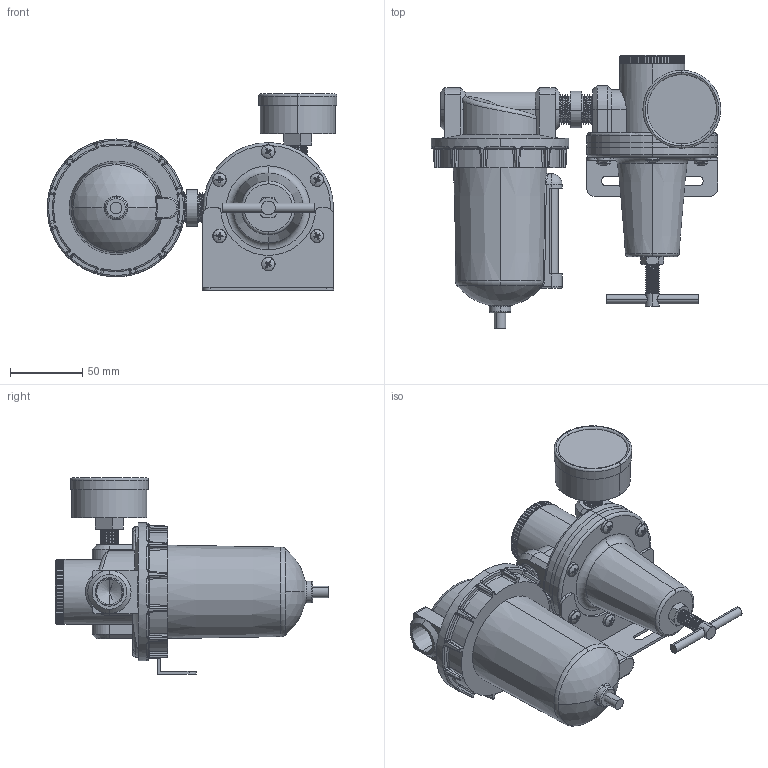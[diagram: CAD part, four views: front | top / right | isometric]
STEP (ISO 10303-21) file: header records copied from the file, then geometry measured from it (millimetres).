
FILE_DESCRIPTION (( 'STEP AP203' ), '1' );
FILE_NAME ('U628#W-04#YB#.STEP', '2016-01-14T17:27:13', ( '' ), ( '' ), 'SwSTEP 2.0', 'SolidWorks 2014', '' );
FILE_SCHEMA (( 'CONFIG_CONTROL_DESIGN' ));
Length unit declared in the file: millimetre
Products named in the file (20): R119-04-4; L606-W-06-5; U628#W-04#YB#; R119-04-1; R119-02-5; R119-04-3; ISO 7045 - M5 x 12; KW18A57; R119-02-7; R119-02-6; 50-P-AD=1-4PT.SLDPRT; L606-W-04-下; F602-04-上; 50-P-AD=1-4PT-1; R119-04; R119-04-2; 50-P-AD=1-4PT-2; L606-W-06-2; 1-2-圓; F602W-04#YB#
Assembly tree (24 placements, depth 4):
  U628#W-04#YB#
    R119-04
      R119-04-1
      R119-04-2
      R119-04-3
      R119-04-4
      R119-02-5
      R119-02-7
      R119-02-6
      ISO 7045 - M5 x 12  x6
      50-P-AD=1-4PT.SLDPRT
        50-P-AD=1-4PT-1
        50-P-AD=1-4PT-2
      KW18A57
    1-2-圓
    F602W-04#YB#
      F602-04-上
      L606-W-06-2
      L606-W-06-5
      L606-W-04-下
Bounding box: 200.75 x 189.5 x 136 mm (x, y, z)
Volume: 908895.4 mm3; surface area: 161694.5 mm2
Topology: 21 solids, 21 shells, 1184 faces, 2879 edges, 1712 vertices
Faces by surface type: plane 404, cylinder 289, cone 260, bspline 113, torus 73, sphere 45
Entity records: 44042 total; most frequent: CARTESIAN_POINT 19944, ORIENTED_EDGE 4838, DIRECTION 4311, EDGE_CURVE 2419, AXIS2_PLACEMENT_3D 1785, VERTEX_POINT 1456, EDGE_LOOP 1059, FACE_OUTER_BOUND 1014
